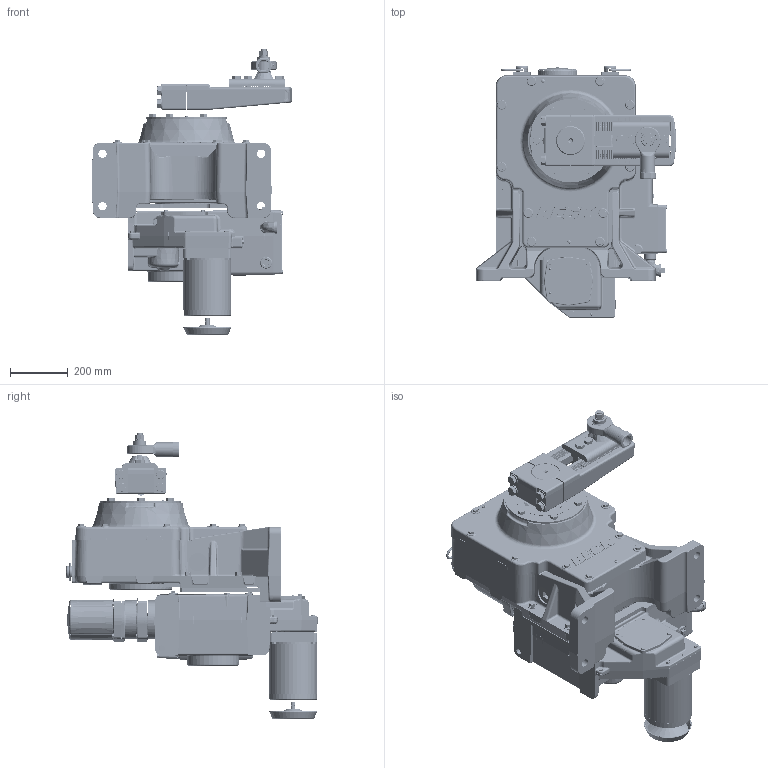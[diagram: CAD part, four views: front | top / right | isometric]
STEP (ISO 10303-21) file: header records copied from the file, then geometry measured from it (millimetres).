
FILE_DESCRIPTION (( 'STEP AP203' ), '1' );
FILE_NAME ('18-0430-01 with 14-8022-42 crank arm.STEP', '2012-07-17T16:34:52', ( '' ), ( '' ), 'SwSTEP 2.0', 'SolidWorks 2011', '' );
FILE_SCHEMA (( 'CONFIG_CONTROL_DESIGN' ));
Products named in the file (1): 18-0430-01 with 14-8022-42 crank arm
Bounding box: 691.44 x 868.09 x 984.8 mm (x, y, z)
Surface area: 3642901.9 mm2 (no closed solid volume)
Topology: 0 solids, 297 shells, 3531 faces, 14485 edges, 10719 vertices
Faces by surface type: plane 1228, cylinder 1114, bspline 628, cone 277, torus 218, sphere 66
Full cylindrical faces by diameter (mm): 50.8 x1
Entity records: 195949 total; most frequent: CARTESIAN_POINT 87434, DIRECTION 21008, ORIENTED_EDGE 20583, EDGE_CURVE 14395, VERTEX_POINT 10719, AXIS2_PLACEMENT_3D 7303, LINE 6402, VECTOR 6402
